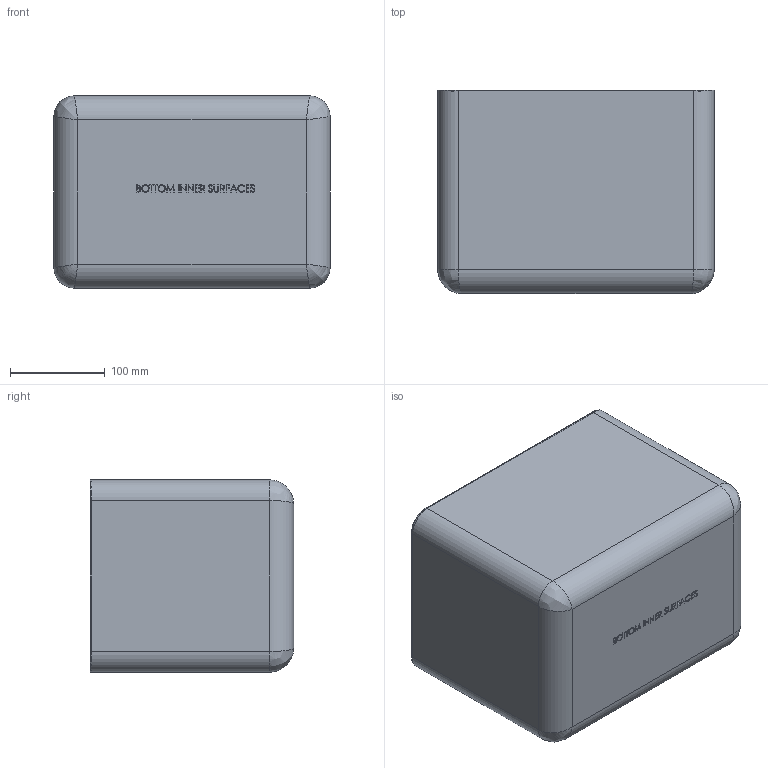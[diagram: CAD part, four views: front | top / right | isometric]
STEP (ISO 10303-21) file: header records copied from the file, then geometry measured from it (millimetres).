
FILE_DESCRIPTION (( 'STEP AP203' ), '1' );
FILE_NAME ('T20_BOTTOM_INNER SURFACES.STEP', '2023-06-19T21:32:58', ( '' ), ( '' ), 'SwSTEP 2.0', 'SolidWorks 2022', '' );
FILE_SCHEMA (( 'CONFIG_CONTROL_DESIGN' ));
Products named in the file (1): T20_BOTTOM_INNER SURFACES
Bounding box: 291.98 x 214.73 x 203.08 mm (x, y, z)
Volume: 2876925.3 mm3; surface area: 494233.4 mm2
Topology: 1 solids, 1 shells, 1190 faces, 2897 edges, 1712 vertices
Faces by surface type: bspline 437, plane 299, cylinder 204, torus 156, cone 86, sphere 8
Entity records: 53141 total; most frequent: CARTESIAN_POINT 28648, ORIENTED_EDGE 5738, DIRECTION 4318, EDGE_CURVE 2869, VERTEX_POINT 1712, AXIS2_PLACEMENT_3D 1634, EDGE_LOOP 1221, ADVANCED_FACE 1190
